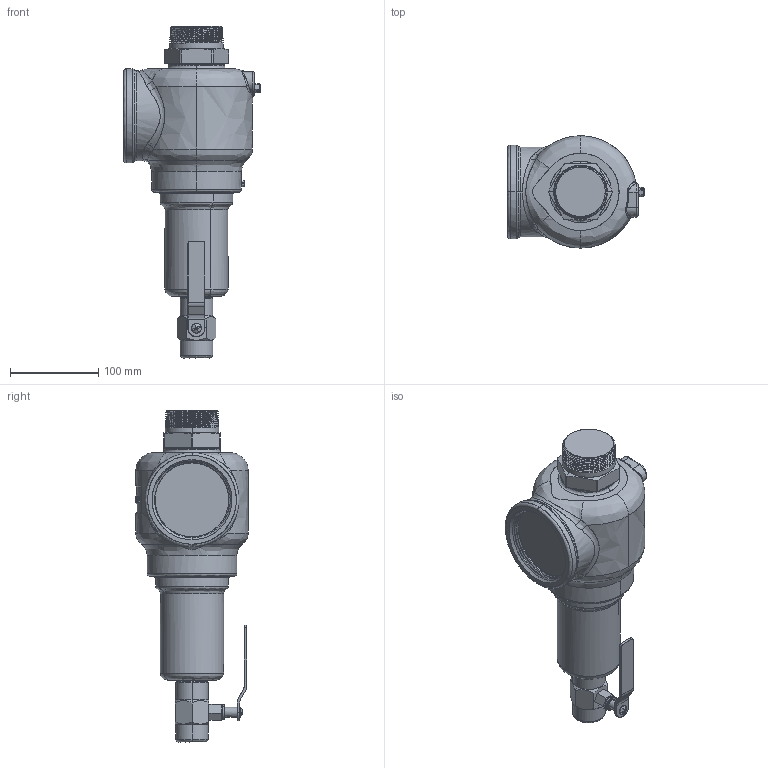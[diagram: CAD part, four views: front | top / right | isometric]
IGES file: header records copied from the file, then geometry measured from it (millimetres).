
Start section: SolidWorks IGES file using NURBS representation for surfaces
Global section: file name: C:\Design\Design\Aquatrol\Customer 3D Files\Series 740 Customer Files\J Orifice\Customer\Iges Files\Series 740 J 2000 x 3000 Packed Lever.IGS; native system: SolidWorks 2015; preprocessor: SolidWorks 2015; author: Karl; date: 150515.104217; units: inch
Bounding box: 154.94 x 127 x 375.75 mm (x, y, z)
Surface area: 142075.5 mm2 (no closed solid volume)
Topology: 0 solids, 0 shells, 448 faces, 8439 edges, 8439 vertices
Faces by surface type: bspline 448
